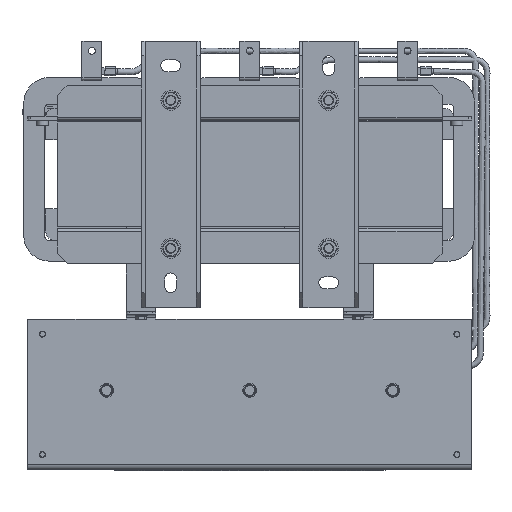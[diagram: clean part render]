
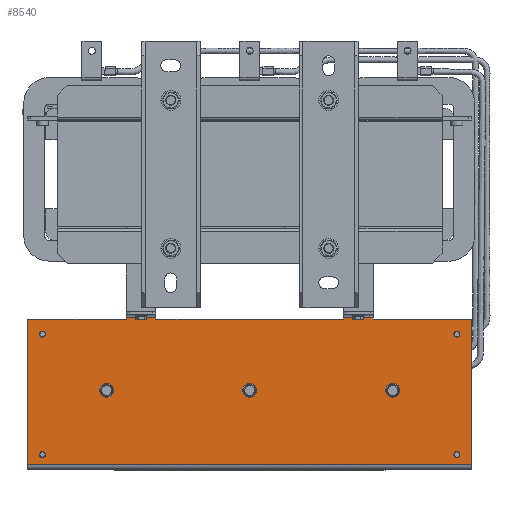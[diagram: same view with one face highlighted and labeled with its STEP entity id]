
A CAD part, front view. The second image highlights one B-rep face of the part: STEP entity #8540.
In plain terms, the highlighted planar face has unit normal (0, -1, 0).
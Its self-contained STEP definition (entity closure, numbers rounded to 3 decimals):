
#8540=ADVANCED_FACE('',(#18628,#18630,#18632,#18634,#18636,#18638,#18640,#18642),
#18644,.F.);
#18628=FACE_BOUND('',#18629,.T.);
#18629=EDGE_LOOP('',(#31716,#31717,#31718,#31719,#31720,#31721,#31722,#31723,#31724,
#31725,#31726,#31727));
#18630=FACE_BOUND('',#18631,.T.);
#18631=EDGE_LOOP('',(#31728));
#18632=FACE_BOUND('',#18633,.T.);
#18633=EDGE_LOOP('',(#31729));
#18634=FACE_BOUND('',#18635,.T.);
#18635=EDGE_LOOP('',(#31730));
#18636=FACE_BOUND('',#18637,.T.);
#18637=EDGE_LOOP('',(#31731));
#18638=FACE_BOUND('',#18639,.T.);
#18639=EDGE_LOOP('',(#31732));
#18640=FACE_BOUND('',#18641,.T.);
#18641=EDGE_LOOP('',(#31733));
#18642=FACE_BOUND('',#18643,.T.);
#18643=EDGE_LOOP('',(#31734));
#18644=PLANE('',#18645);
#18645=AXIS2_PLACEMENT_3D('',#18646,#18647,#18648);
#18646=CARTESIAN_POINT('',(-154.,-60.,225.));
#18647=DIRECTION('',(0.,1.,0.));
#18648=DIRECTION('',(0.,0.,1.));
#31716=ORIENTED_EDGE('',*,*,#36870,.T.);
#31717=ORIENTED_EDGE('',*,*,#36871,.T.);
#31718=ORIENTED_EDGE('',*,*,#36872,.T.);
#31719=ORIENTED_EDGE('',*,*,#36873,.F.);
#31720=ORIENTED_EDGE('',*,*,#36874,.T.);
#31721=ORIENTED_EDGE('',*,*,#36875,.T.);
#31722=ORIENTED_EDGE('',*,*,#36876,.T.);
#31723=ORIENTED_EDGE('',*,*,#36877,.F.);
#31724=ORIENTED_EDGE('',*,*,#36803,.T.);
#31725=ORIENTED_EDGE('',*,*,#36878,.T.);
#31726=ORIENTED_EDGE('',*,*,#36789,.F.);
#31727=ORIENTED_EDGE('',*,*,#36879,.F.);
#31728=ORIENTED_EDGE('',*,*,#36728,.T.);
#31729=ORIENTED_EDGE('',*,*,#36730,.T.);
#31730=ORIENTED_EDGE('',*,*,#36732,.T.);
#31731=ORIENTED_EDGE('',*,*,#36734,.T.);
#31732=ORIENTED_EDGE('',*,*,#36736,.T.);
#31733=ORIENTED_EDGE('',*,*,#36738,.T.);
#31734=ORIENTED_EDGE('',*,*,#36740,.T.);
#36728=EDGE_CURVE('',#39801,#39801,#39802,.T.);
#36730=EDGE_CURVE('',#39805,#39805,#39806,.T.);
#36732=EDGE_CURVE('',#39809,#39809,#39810,.T.);
#36734=EDGE_CURVE('',#39813,#39813,#39814,.T.);
#36736=EDGE_CURVE('',#39817,#39817,#39818,.T.);
#36738=EDGE_CURVE('',#39821,#39821,#39822,.T.);
#36740=EDGE_CURVE('',#39825,#39825,#39826,.T.);
#36789=EDGE_CURVE('',#39917,#39918,#39919,.T.);
#36803=EDGE_CURVE('',#39946,#39944,#39947,.T.);
#36870=EDGE_CURVE('',#40064,#40065,#40066,.T.);
#36871=EDGE_CURVE('',#40065,#40067,#40068,.T.);
#36872=EDGE_CURVE('',#40067,#40069,#40070,.T.);
#36873=EDGE_CURVE('',#40071,#40069,#40072,.T.);
#36874=EDGE_CURVE('',#40071,#40073,#40074,.T.);
#36875=EDGE_CURVE('',#40073,#40075,#40076,.T.);
#36876=EDGE_CURVE('',#40075,#40077,#40078,.T.);
#36877=EDGE_CURVE('',#39946,#40077,#40079,.T.);
#36878=EDGE_CURVE('',#39944,#39918,#40080,.T.);
#36879=EDGE_CURVE('',#40064,#39917,#40081,.T.);
#39801=VERTEX_POINT('',#46816);
#39802=CIRCLE('',#46817,3.);
#39805=VERTEX_POINT('',#46826);
#39806=CIRCLE('',#46827,3.);
#39809=VERTEX_POINT('',#46836);
#39810=CIRCLE('',#46837,3.);
#39813=VERTEX_POINT('',#46846);
#39814=CIRCLE('',#46847,3.);
#39817=VERTEX_POINT('',#46856);
#39818=CIRCLE('',#46857,7.);
#39821=VERTEX_POINT('',#46866);
#39822=CIRCLE('',#46867,7.);
#39825=VERTEX_POINT('',#46876);
#39826=CIRCLE('',#46877,7.);
#39917=VERTEX_POINT('',#47087);
#39918=VERTEX_POINT('',#47088);
#39919=LINE('',#47089,#47090);
#39944=VERTEX_POINT('',#47144);
#39946=VERTEX_POINT('',#47149);
#39947=LINE('',#47150,#47151);
#40064=VERTEX_POINT('',#47415);
#40065=VERTEX_POINT('',#47416);
#40066=LINE('',#47417,#47418);
#40067=VERTEX_POINT('',#47420);
#40068=LINE('',#47421,#47422);
#40069=VERTEX_POINT('',#47424);
#40070=LINE('',#47425,#47426);
#40071=VERTEX_POINT('',#47428);
#40072=LINE('',#47429,#47430);
#40073=VERTEX_POINT('',#47432);
#40074=LINE('',#47433,#47434);
#40075=VERTEX_POINT('',#47436);
#40076=LINE('',#47437,#47438);
#40077=VERTEX_POINT('',#47440);
#40078=LINE('',#47441,#47442);
#40079=LINE('',#47444,#47445);
#40080=LINE('',#47447,#47448);
#40081=LINE('',#47450,#47451);
#46816=CARTESIAN_POINT('',(-15.,-60.,-210.));
#46817=AXIS2_PLACEMENT_3D('',#46818,#46819,#46820);
#46818=CARTESIAN_POINT('',(-12.,-60.,-210.));
#46819=DIRECTION('',(0.,1.,0.));
#46820=DIRECTION('',(1.,0.,0.));
#46826=CARTESIAN_POINT('',(-137.,-60.,210.));
#46827=AXIS2_PLACEMENT_3D('',#46828,#46829,#46830);
#46828=CARTESIAN_POINT('',(-134.,-60.,210.));
#46829=DIRECTION('',(0.,1.,0.));
#46830=DIRECTION('',(1.,0.,0.));
#46836=CARTESIAN_POINT('',(-15.,-60.,210.));
#46837=AXIS2_PLACEMENT_3D('',#46838,#46839,#46840);
#46838=CARTESIAN_POINT('',(-12.,-60.,210.));
#46839=DIRECTION('',(0.,1.,0.));
#46840=DIRECTION('',(1.,0.,0.));
#46846=CARTESIAN_POINT('',(-137.,-60.,-210.));
#46847=AXIS2_PLACEMENT_3D('',#46848,#46849,#46850);
#46848=CARTESIAN_POINT('',(-134.,-60.,-210.));
#46849=DIRECTION('',(0.,1.,0.));
#46850=DIRECTION('',(1.,0.,0.));
#46856=CARTESIAN_POINT('',(-77.,-60.,152.));
#46857=AXIS2_PLACEMENT_3D('',#46858,#46859,#46860);
#46858=CARTESIAN_POINT('',(-77.,-60.,145.));
#46859=DIRECTION('',(0.,1.,0.));
#46860=DIRECTION('',(0.,0.,-1.));
#46866=CARTESIAN_POINT('',(-77.,-60.,-138.));
#46867=AXIS2_PLACEMENT_3D('',#46868,#46869,#46870);
#46868=CARTESIAN_POINT('',(-77.,-60.,-145.));
#46869=DIRECTION('',(0.,1.,0.));
#46870=DIRECTION('',(0.,0.,-1.));
#46876=CARTESIAN_POINT('',(-77.,-60.,7.));
#46877=AXIS2_PLACEMENT_3D('',#46878,#46879,#46880);
#46878=CARTESIAN_POINT('',(-77.,-60.,0.));
#46879=DIRECTION('',(0.,1.,0.));
#46880=DIRECTION('',(0.,0.,-1.));
#47087=CARTESIAN_POINT('',(-149.,-60.,225.));
#47088=CARTESIAN_POINT('',(-2.,-60.,225.));
#47089=CARTESIAN_POINT('',(-149.,-60.,225.));
#47090=VECTOR('',#47091,1.);
#47091=DIRECTION('',(1.,0.,0.));
#47144=CARTESIAN_POINT('',(-2.,-60.,-225.));
#47149=CARTESIAN_POINT('',(-149.,-60.,-225.));
#47150=CARTESIAN_POINT('',(-149.,-60.,-225.));
#47151=VECTOR('',#47152,1.);
#47152=DIRECTION('',(1.,0.,0.));
#47415=CARTESIAN_POINT('',(-149.,-60.,125.));
#47416=CARTESIAN_POINT('',(-151.,-60.,125.));
#47417=CARTESIAN_POINT('',(-149.,-60.,125.));
#47418=VECTOR('',#47419,1.);
#47419=DIRECTION('',(-1.,0.,0.));
#47420=CARTESIAN_POINT('',(-151.,-60.,95.));
#47421=CARTESIAN_POINT('',(-151.,-60.,125.));
#47422=VECTOR('',#47423,1.);
#47423=DIRECTION('',(0.,0.,-1.));
#47424=CARTESIAN_POINT('',(-149.,-60.,95.));
#47425=CARTESIAN_POINT('',(-151.,-60.,95.));
#47426=VECTOR('',#47427,1.);
#47427=DIRECTION('',(1.,0.,0.));
#47428=CARTESIAN_POINT('',(-149.,-60.,-95.));
#47429=CARTESIAN_POINT('',(-149.,-60.,-95.));
#47430=VECTOR('',#47431,1.);
#47431=DIRECTION('',(0.,0.,1.));
#47432=CARTESIAN_POINT('',(-151.,-60.,-95.));
#47433=CARTESIAN_POINT('',(-149.,-60.,-95.));
#47434=VECTOR('',#47435,1.);
#47435=DIRECTION('',(-1.,0.,0.));
#47436=CARTESIAN_POINT('',(-151.,-60.,-125.));
#47437=CARTESIAN_POINT('',(-151.,-60.,-95.));
#47438=VECTOR('',#47439,1.);
#47439=DIRECTION('',(0.,0.,-1.));
#47440=CARTESIAN_POINT('',(-149.,-60.,-125.));
#47441=CARTESIAN_POINT('',(-151.,-60.,-125.));
#47442=VECTOR('',#47443,1.);
#47443=DIRECTION('',(1.,0.,0.));
#47444=CARTESIAN_POINT('',(-149.,-60.,-225.));
#47445=VECTOR('',#47446,1.);
#47446=DIRECTION('',(0.,0.,1.));
#47447=CARTESIAN_POINT('',(-2.,-60.,-225.));
#47448=VECTOR('',#47449,1.);
#47449=DIRECTION('',(0.,0.,1.));
#47450=CARTESIAN_POINT('',(-149.,-60.,125.));
#47451=VECTOR('',#47452,1.);
#47452=DIRECTION('',(0.,0.,1.));
